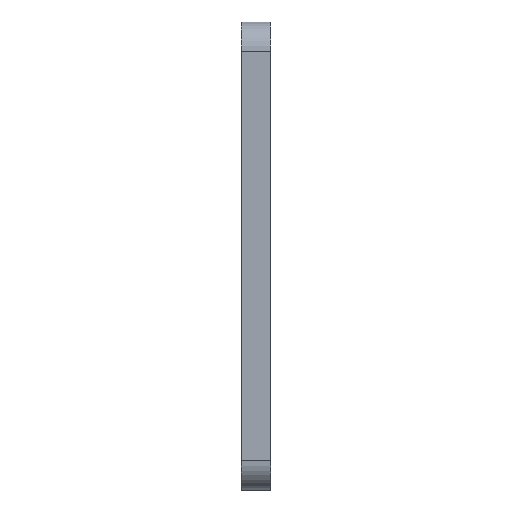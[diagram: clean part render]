
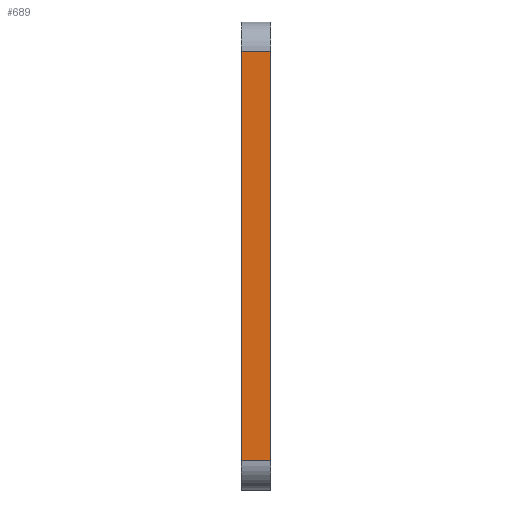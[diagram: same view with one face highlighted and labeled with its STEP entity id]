
A CAD part, left-side view. The second image highlights one B-rep face of the part: STEP entity #689.
In plain terms, the highlighted planar face has unit normal (-1, 0, 0).
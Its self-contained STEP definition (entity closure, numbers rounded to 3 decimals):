
#31 = EDGE_CURVE ( 'NONE', #395, #398, #464, .T. ) ;
#58 = AXIS2_PLACEMENT_3D ( 'NONE', #759, #768, #769 ) ;
#87 = EDGE_CURVE ( 'NONE', #395, #403, #493, .T. ) ;
#102 = EDGE_CURVE ( 'NONE', #403, #420, #511, .T. ) ;
#128 = EDGE_CURVE ( 'NONE', #420, #398, #499, .T. ) ;
#177 = CARTESIAN_POINT ( 'NONE',  ( 0., 0., -35. ) ) ;
#181 = CARTESIAN_POINT ( 'NONE',  ( 0., 5., 35. ) ) ;
#191 = EDGE_LOOP ( 'NONE', ( #247, #267, #249, #309 ) ) ;
#247 = ORIENTED_EDGE ( 'NONE', *, *, #31, .F. ) ;
#249 = ORIENTED_EDGE ( 'NONE', *, *, #102, .T. ) ;
#267 = ORIENTED_EDGE ( 'NONE', *, *, #87, .T. ) ;
#309 = ORIENTED_EDGE ( 'NONE', *, *, #128, .T. ) ;
#395 = VERTEX_POINT ( 'NONE', #733 ) ;
#398 = VERTEX_POINT ( 'NONE', #181 ) ;
#403 = VERTEX_POINT ( 'NONE', #177 ) ;
#420 = VERTEX_POINT ( 'NONE', #829 ) ;
#454 = VECTOR ( 'NONE', #819, 1000. ) ;
#464 = LINE ( 'NONE', #805, #454 ) ;
#493 = LINE ( 'NONE', #808, #521 ) ;
#499 = LINE ( 'NONE', #922, #516 ) ;
#507 = VECTOR ( 'NONE', #714, 1000. ) ;
#511 = LINE ( 'NONE', #715, #507 ) ;
#516 = VECTOR ( 'NONE', #944, 1000. ) ;
#521 = VECTOR ( 'NONE', #809, 1000. ) ;
#624 = FACE_OUTER_BOUND ( 'NONE', #191, .T. ) ;
#689 = ADVANCED_FACE ( 'NONE', ( #624 ), #766, .F. ) ;
#714 = DIRECTION ( 'NONE',  ( 0., 0., 1. ) ) ;
#715 = CARTESIAN_POINT ( 'NONE',  ( 0., 0., 40. ) ) ;
#733 = CARTESIAN_POINT ( 'NONE',  ( 0., 5., -35. ) ) ;
#759 = CARTESIAN_POINT ( 'NONE',  ( 0., 5., 40. ) ) ;
#766 = PLANE ( 'NONE',  #58 ) ;
#768 = DIRECTION ( 'NONE',  ( 1., 0., 0. ) ) ;
#769 = DIRECTION ( 'NONE',  ( 0., 0., -1. ) ) ;
#805 = CARTESIAN_POINT ( 'NONE',  ( 0., 5., 40. ) ) ;
#808 = CARTESIAN_POINT ( 'NONE',  ( 0., 5., -35. ) ) ;
#809 = DIRECTION ( 'NONE',  ( 0., -1., 0. ) ) ;
#819 = DIRECTION ( 'NONE',  ( 0., 0., 1. ) ) ;
#829 = CARTESIAN_POINT ( 'NONE',  ( 0., 0., 35. ) ) ;
#922 = CARTESIAN_POINT ( 'NONE',  ( 0., 5., 35. ) ) ;
#944 = DIRECTION ( 'NONE',  ( 0., 1., 0. ) ) ;
